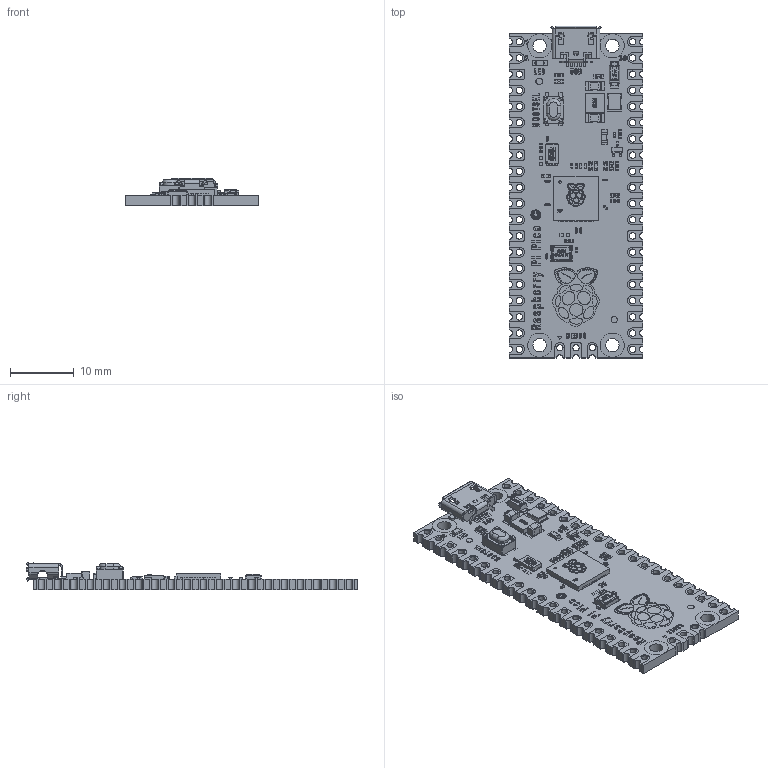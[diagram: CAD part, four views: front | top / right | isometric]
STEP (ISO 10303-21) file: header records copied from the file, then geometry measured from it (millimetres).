
FILE_DESCRIPTION(/* description */ ('','CAx-IF Rec.Pracs.---Representation and Presentation of Product Manufacturing Information (PMI)---4.0---2014-10-13'),/* implementation_level */ '2;1');
FILE_NAME(/* name */ 'RaspBerryPi Pico.step',/* time_stamp */ '2025-04-09T20:05:11+03:00',/* author */ (''),/* organization */ (''),/* preprocessor_version */ 'ST-DEVELOPER v20',/* originating_system */ 'Autodesk Translation Framework v13.20.0.188',/* authorisation */ '');
FILE_SCHEMA (('AP242_MANAGED_MODEL_BASED_3D_ENGINEERING_MIM_LF { 1 0 10303 442 1 1 4 }'));
Products named in the file (21): RaspBerryPi Pico; RP2040; BOOTSEL; USB microB; Resistor; R1608; R0603; R1005; RaspberryPi Pico_Solder; Capacitor; C1005; C2012; C0603; Crystal unit; Transistor; RT6150B-33GQW; MBR120VLSFT1G; L2520; LED1608_04; W25Q16JV_UX; RaspBerryPi Pico_CircuitBoard_logo
Assembly tree (46 placements, depth 3):
  RaspBerryPi Pico
    RP2040
    BOOTSEL
    USB microB
    Resistor
      R0603  x2
      R1005  x11
      R1608
    RaspberryPi Pico_Solder
    Capacitor
      C1005  x4
      C0603  x12
      C2012  x2
    Crystal unit
    Transistor
    RT6150B-33GQW
    MBR120VLSFT1G
    L2520
    LED1608_04
    W25Q16JV_UX
    RaspBerryPi Pico_CircuitBoard_logo
Bounding box: 21 x 52.1 x 4.3 mm (x, y, z)
Volume: 1762.6 mm3; surface area: 4547.1 mm2
Topology: 533 solids, 533 shells, 7947 faces, 19666 edges, 12748 vertices
Faces by surface type: plane 3972, bspline 2525, cylinder 1060, torus 228, sphere 162
Full cylindrical faces by diameter (mm): 0.25 x2, 0.3 x28, 0.4 x1, 1 x47, 2.1 x4, 3.8 x8
Entity records: 212329 total; most frequent: CARTESIAN_POINT 73979, ORIENTED_EDGE 31096, DIRECTION 22556, EDGE_CURVE 15548, VERTEX_POINT 10082, LINE 9724, VECTOR 9724, EDGE_LOOP 6526
